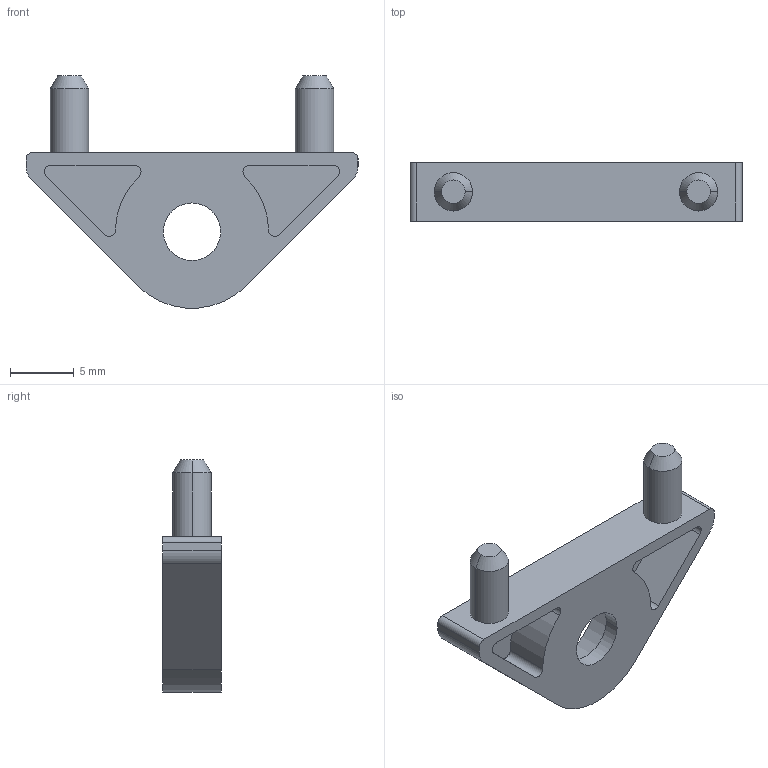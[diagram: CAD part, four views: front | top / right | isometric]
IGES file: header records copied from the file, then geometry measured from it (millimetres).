
Start section:  PTC IGES file: cu_cb50_pnl.igs
Global section: file name: cu_cb50_pnl.igs; native system: Pro/ENGINEER by Parametric Technology Corporation; preprocessor: 2006300; author: chrisj; organization: Unknown; date: 20080905.080851; units: inch
Bounding box: 26 x 4.6 x 18.18 mm (x, y, z)
Surface area: 1044 mm2 (no closed solid volume)
Topology: 0 solids, 0 shells, 84 faces, 430 edges, 430 vertices
Faces by surface type: revolution 51, bspline 33
